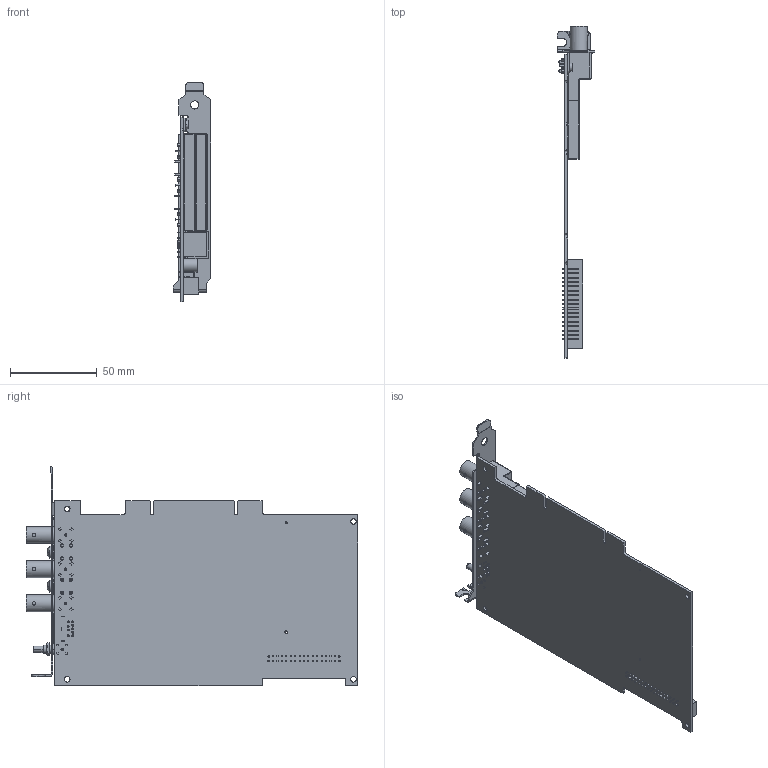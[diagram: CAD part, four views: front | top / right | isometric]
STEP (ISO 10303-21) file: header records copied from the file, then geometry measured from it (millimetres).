
FILE_DESCRIPTION((''),'2;1');
FILE_NAME('CU_PCI-5112','2009-12-02T',('jjorden'),(''),'PRO/ENGINEER BY PARAMETRIC TECHNOLOGY CORPORATION, 2006080','PRO/ENGINEER BY PARAMETRIC TECHNOLOGY CORPORATION, 2006080','');
FILE_SCHEMA(('CONFIG_CONTROL_DESIGN'));
Length unit declared in the file: inch
Products named in the file (1): CU_PCI-5112
Bounding box: 21.59 x 190.78 x 126.22 mm (x, y, z)
Volume: 42718.4 mm3; surface area: 60344.3 mm2
Topology: 2 solids, 2 shells, 1355 faces, 3585 edges, 2282 vertices
Faces by surface type: plane 925, cylinder 354, bspline 54, cone 10, torus 8, sphere 4
Entity records: 44305 total; most frequent: CARTESIAN_POINT 10369, ORIENTED_EDGE 7090, DIRECTION 6762, EDGE_CURVE 3545, VECTOR 2630, LINE 2630, VERTEX_POINT 2320, AXIS2_PLACEMENT_3D 2066
